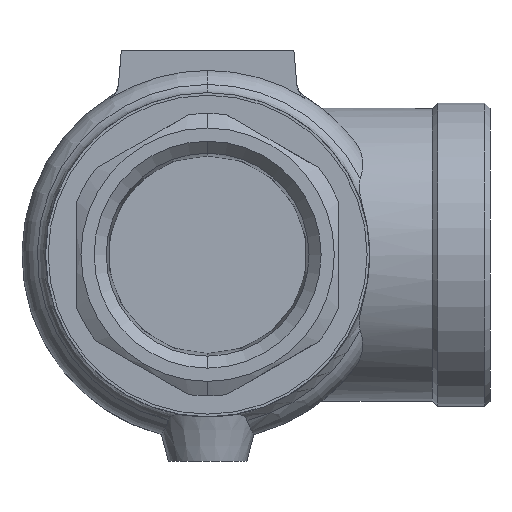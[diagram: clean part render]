
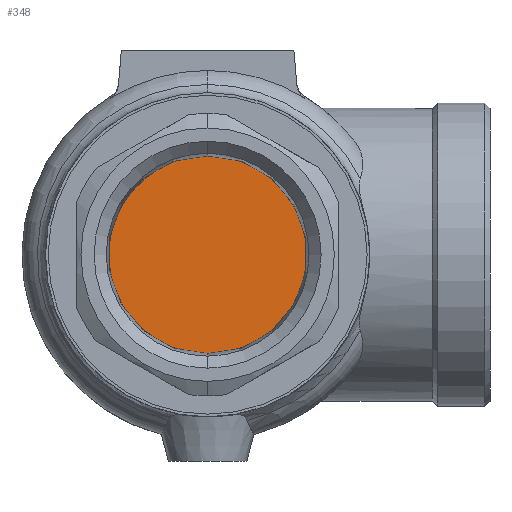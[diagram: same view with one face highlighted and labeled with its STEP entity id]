
A CAD part, front view. The second image highlights one B-rep face of the part: STEP entity #348.
In plain terms, the highlighted planar face has unit normal (0, -1, 0).
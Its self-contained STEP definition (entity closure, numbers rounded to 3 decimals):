
#143 = AXIS2_PLACEMENT_3D ( 'NONE', #1947, #2782, #2241 ) ;
#176 = ORIENTED_EDGE ( 'NONE', *, *, #3830, .F. ) ;
#348 = ADVANCED_FACE ( 'NONE', ( #2250 ), #2536, .F. ) ;
#719 = ORIENTED_EDGE ( 'NONE', *, *, #871, .F. ) ;
#868 = AXIS2_PLACEMENT_3D ( 'NONE', #3780, #1056, #1361 ) ;
#871 = EDGE_CURVE ( 'NONE', #1573, #3105, #1824, .T. ) ;
#1044 = CARTESIAN_POINT ( 'NONE',  ( 0., -43., 18.9 ) ) ;
#1056 = DIRECTION ( 'NONE',  ( 0., 1., 0. ) ) ;
#1298 = DIRECTION ( 'NONE',  ( 0., 1., 0. ) ) ;
#1361 = DIRECTION ( 'NONE',  ( 0., 0., 1. ) ) ;
#1573 = VERTEX_POINT ( 'NONE', #3624 ) ;
#1722 = CIRCLE ( 'NONE', #3665, 18.9 ) ;
#1824 = CIRCLE ( 'NONE', #143, 18.9 ) ;
#1947 = CARTESIAN_POINT ( 'NONE',  ( 0., -43., 0. ) ) ;
#2121 = CARTESIAN_POINT ( 'NONE',  ( 0., -43., 0. ) ) ;
#2143 = DIRECTION ( 'NONE',  ( 0., 0., 1. ) ) ;
#2241 = DIRECTION ( 'NONE',  ( 0., 0., 1. ) ) ;
#2250 = FACE_OUTER_BOUND ( 'NONE', #3015, .T. ) ;
#2536 = PLANE ( 'NONE',  #868 ) ;
#2782 = DIRECTION ( 'NONE',  ( 0., 1., 0. ) ) ;
#3015 = EDGE_LOOP ( 'NONE', ( #719, #176 ) ) ;
#3105 = VERTEX_POINT ( 'NONE', #1044 ) ;
#3624 = CARTESIAN_POINT ( 'NONE',  ( 0., -43., -18.9 ) ) ;
#3665 = AXIS2_PLACEMENT_3D ( 'NONE', #2121, #1298, #2143 ) ;
#3780 = CARTESIAN_POINT ( 'NONE',  ( -18.9, -43., 0. ) ) ;
#3830 = EDGE_CURVE ( 'NONE', #3105, #1573, #1722, .T. ) ;
